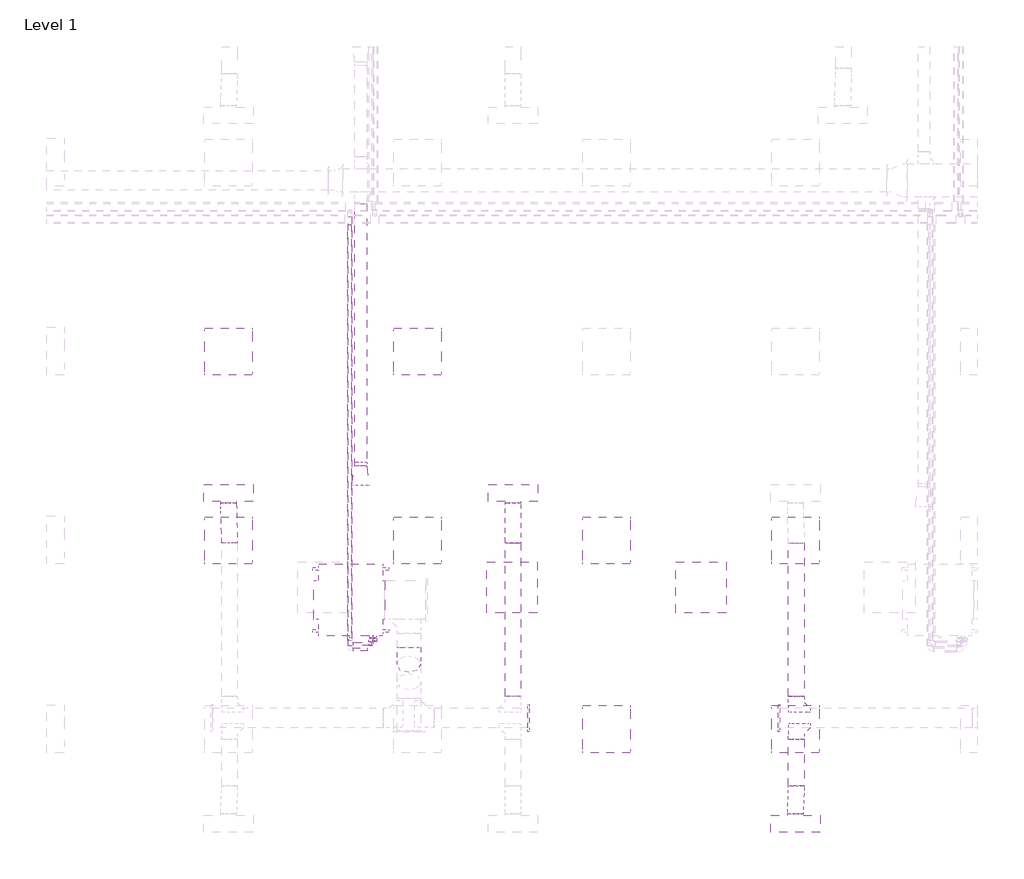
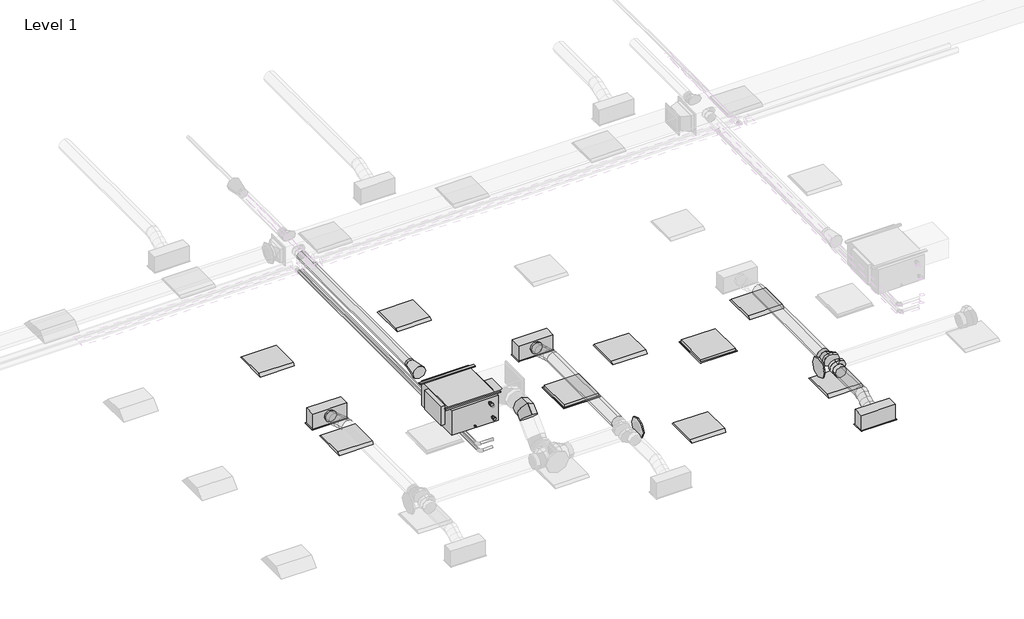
# One storey, part 7 of 30: 8 light fixtures, 7 duct segments, 6 air terminals, 6 pipe segments, 5 duct fittings, 2 pipe fittings, 1 proxy.
"""IFC4 building model written with IfcOpenShell, lengths in millimetres."""

from ifc_helpers import new_model, si_unit, point, frame, frame_2d, origin, place, context, project, spatial, circle_curve, ellipse_curve, trimmed, segment, composite_curve, outline, extrude, transform, mapped, element, save
from ifc_brep_helpers import plane_surface, cylinder_surface, advanced_brep
from components import air_terminal_0d1c431e, return_grille_rectangular_hosted_standard_7b12617c, supply_diffuser_with_plenum_linear_slot_hosted_2b730595, fan_coil_unit_ceiling_ducted_chw_376_lps_d7d55c98, dw144_round_blank_end_standard_9aa061e7, dw144_round_segmented_bend_slip_joint_standard_8b80c5ae, dw144_round_shoe_branch_slip_joint1_standard_2_15a2edd8, light_fixture_1c7c1157, light_fixture_b730b5ca, socket_reducing_threaded_gmi_standard_0a4076b8

model = new_model("IFC4")

# Units and contexts
model_context = context("Model", 3, world=origin())
ifc_project = project(units=[si_unit("LENGTHUNIT", "METRE", prefix="MILLI")], contexts=[model_context])

# Site, building, storey
site = spatial("IfcSite", under=ifc_project)
building = spatial("IfcBuilding", under=site)
storey = spatial("IfcBuildingStorey", under=building, Name="Level 1", Elevation=3900.0)

# Air terminals
placement = place(None, origin())
air_terminal_shape = air_terminal_0d1c431e(model_context)
element("IfcAirTerminal", 1, ObjectType="Supply_Bell_Mouth_Grille : Supply_Bell_Mouth_Grille", at=placement, inside=storey, context=model_context, shape_type="MappedRepresentation", body=[
    mapped(air_terminal_shape, transform((18039.0080407, 5510.2561435, 6946.3), x_axis=(0.0, -1.0, 0.0), y_axis=(1.0, 0.0, 0.0), z_axis=(0.0, 0.0, 1.0))),
])
return_grille_rectangular_hosted_standard_shape = return_grille_rectangular_hosted_standard_7b12617c(model_context)
element("IfcAirTerminal", 2, ObjectType="Return Grille - Rectangular - Hosted : Standard", at=placement, inside=storey, context=model_context, shape_type="MappedRepresentation", body=[
    mapped(return_grille_rectangular_hosted_standard_shape, transform((19962.2000027, 3963.2000004, 6700.0), x_axis=(1.0, 0.0, 0.0), y_axis=(0.0, -1.0, 0.0), z_axis=(0.0, 0.0, -1.0))),
])
element("IfcAirTerminal", 3, ObjectType="Return Grille - Rectangular - Hosted : Standard", at=placement, inside=storey, context=model_context, shape_type="MappedRepresentation", body=[
    mapped(return_grille_rectangular_hosted_standard_shape, transform((22362.2000027, 3963.2000004, 6700.0), x_axis=(0.0, -1.0, 0.0), y_axis=(-1.0, 0.0, 0.0), z_axis=(0.0, 0.0, -1.0))),
])
supply_diffuser_with_plenum_linear_slot_hosted_shape = supply_diffuser_with_plenum_linear_slot_hosted_2b730595(model_context)
element("IfcAirTerminal", 4, ObjectType="Supply Diffuser with Plenum - Linear Slot - Hosted : 24\" x 8\"-200 In Inlet  4-Slot", at=placement, inside=storey, context=model_context, shape_type="MappedRepresentation", body=[
    mapped(supply_diffuser_with_plenum_linear_slot_hosted_shape, transform((23562.2000027, 963.2000004, 6700.0), x_axis=(1.0, 0.0, 0.0), y_axis=(0.0, -1.0, 0.0), z_axis=(0.0, 0.0, -1.0))),
])
element("IfcAirTerminal", 5, ObjectType="Supply Diffuser with Plenum - Linear Slot - Hosted : 24\" x 8\"-200 In Inlet  4-Slot", at=placement, inside=storey, context=model_context, shape_type="MappedRepresentation", body=[
    mapped(supply_diffuser_with_plenum_linear_slot_hosted_shape, transform((16362.2000027, 5163.2000004, 6700.0), x_axis=(-1.0, 0.0, 0.0), y_axis=(0.0, 1.0, 0.0), z_axis=(0.0, 0.0, -1.0))),
])
element("IfcAirTerminal", 6, ObjectType="Supply Diffuser with Plenum - Linear Slot - Hosted : 24\" x 8\"-200 In Inlet  4-Slot", at=placement, inside=storey, context=model_context, shape_type="MappedRepresentation", body=[
    mapped(supply_diffuser_with_plenum_linear_slot_hosted_shape, transform((19973.9000022, 5163.2000004, 6700.0), x_axis=(-1.0, 0.0, 0.0), y_axis=(0.0, 1.0, 0.0), z_axis=(0.0, 0.0, -1.0))),
])

# Proxy
fan_coil_unit_ceiling_ducted_chw_376_lps_shape = fan_coil_unit_ceiling_ducted_chw_376_lps_d7d55c98(model_context)
element("IfcBuildingElementProxy", 7, Name="Fan Coil Unit - Ceiling Ducted - CHW : 376 LPS", ObjectType="Fan Coil Unit - Ceiling Ducted - CHW : 376 LPS", at=placement, inside=storey, context=model_context, shape_type="MappedRepresentation", body=[
    mapped(fan_coil_unit_ceiling_ducted_chw_376_lps_shape, transform((18321.2561025, 4263.2000004, 7122.3911538), x_axis=(0.0, -1.0, 0.0), y_axis=(1.0, 0.0, 0.0), z_axis=(0.0, 0.0, 1.0))),
])

# Duct fittings
dw144_round_blank_end_standard_shape = dw144_round_blank_end_standard_9aa061e7(model_context)
element("IfcDuctFitting", 8, ObjectType="DW144 Round Blank End : Standard", at=placement, inside=storey, context=model_context, shape_type="MappedRepresentation", body=[
    mapped(dw144_round_blank_end_standard_shape, transform((20161.4561025, 2306.5018192, 6972.2088531), x_axis=(1.0, 0.0, 0.0), y_axis=(0.0, 1.0, 0.0), z_axis=(0.0, 0.0, 1.0))),
])
element("IfcDuctFitting", 9, ObjectType="DW144 Round Blank End : Standard", at=placement, inside=storey, context=model_context, shape_type="MappedRepresentation", body=[
    mapped(dw144_round_blank_end_standard_shape, transform((23361.4561025, 2306.5018192, 6972.2088531), x_axis=(-1.0, 0.0, 0.0), y_axis=(0.0, -1.0, 0.0), z_axis=(0.0, 0.0, 1.0))),
])
dw144_round_segmented_bend_slip_joint_standard_shape = dw144_round_segmented_bend_slip_joint_standard_8b80c5ae(model_context)
element("IfcDuctFitting", 10, ObjectType="DW144 Round Segmented Bend - Slip Joint : Standard", at=placement, inside=storey, context=model_context, shape_type="MappedRepresentation", body=[
    mapped(dw144_round_segmented_bend_slip_joint_standard_shape, transform((18651.4561025, 3076.0000004, 7369.575), x_axis=(0.0, -1.0, 0.0), y_axis=(0.0, 0.0, 1.0), z_axis=(-1.0, 0.0, 0.0))),
])
dw144_round_shoe_branch_slip_joint1_standard_2_shape = dw144_round_shoe_branch_slip_joint1_standard_2_15a2edd8(model_context)
element("IfcDuctFitting", 11, ObjectType="DW144 Round Shoe Branch - Slip Joint1 : Standard 2", at=placement, inside=storey, context=model_context, shape_type="MappedRepresentation", body=[
    mapped(dw144_round_shoe_branch_slip_joint1_standard_2_shape, transform((23573.9000022, 2181.5018192, 6972.2088531), x_axis=(0.0, -1.0, 0.0), y_axis=(-1.0, 0.0, 0.0), z_axis=(0.0, 0.0, -1.0))),
])
element("IfcDuctFitting", 12, ObjectType="DW144 Round Shoe Branch - Slip Joint1 : Standard 2", at=placement, inside=storey, context=model_context, shape_type="MappedRepresentation", body=[
    mapped(dw144_round_shoe_branch_slip_joint1_standard_2_shape, transform((23573.9000022, 2431.5018192, 6972.2088531), x_axis=(0.0, 1.0, 0.0), y_axis=(-1.0, 0.0, 0.0), z_axis=(0.0, 0.0, 1.0))),
])

# Duct segments
element("IfcDuctSegment", 13, ObjectType="DW144 Segmented Bend / Shoe Branch", at=placement, inside=storey, context=model_context, shape_type="SweptSolid", body=[
    extrude(outline(composite_curve([segment(trimmed(circle_curve(frame_2d((6972.2088531, 19973.9000022)), 100.0), [point((6972.2088531, 20073.9000022))], [point((7072.2088531, 19973.9000022))], False, "CARTESIAN"), True, "CONTINUOUS"), segment(trimmed(circle_curve(frame_2d((6972.2088531, 19973.9000022)), 100.0), [point((7072.2088531, 19973.9000022))], [point((6972.2088531, 19873.9000022))], False, "CARTESIAN"), True, "CONTINUOUS"), segment(trimmed(circle_curve(frame_2d((6972.2088531, 19973.9000022)), 100.0), [point((6972.2088531, 19873.9000022))], [point((6872.2088531, 19973.9000022))], False, "CARTESIAN"), True, "CONTINUOUS"), segment(trimmed(circle_curve(frame_2d((6972.2088531, 19973.9000022)), 100.0), [point((6872.2088531, 19973.9000022))], [point((6972.2088531, 20073.9000022))], False, "CARTESIAN"), True, "CONTINUOUS")], self_intersect=False)), frame((0.0, 2581.5018192, 0.0), z_axis=(0.0, 1.0, 0.0), x_axis=(0.0, 0.0, 1.0)), (0.0, 0.0, 1.0), 1950.0),
])
element("IfcDuctSegment", 14, ObjectType="DW144 Segmented Bend / Shoe Branch", at=placement, inside=storey, context=model_context, shape_type="SweptSolid", body=[
    extrude(outline(composite_curve([segment(trimmed(circle_curve(frame_2d((6972.2088531, 23573.9000022)), 100.0), [point((6972.2088531, 23673.9000022))], [point((7072.2088531, 23573.9000022))], False, "CARTESIAN"), True, "CONTINUOUS"), segment(trimmed(circle_curve(frame_2d((6972.2088531, 23573.9000022)), 100.0), [point((7072.2088531, 23573.9000022))], [point((6972.2088531, 23473.9000022))], False, "CARTESIAN"), True, "CONTINUOUS"), segment(trimmed(circle_curve(frame_2d((6972.2088531, 23573.9000022)), 100.0), [point((6972.2088531, 23473.9000022))], [point((6872.2088531, 23573.9000022))], False, "CARTESIAN"), True, "CONTINUOUS"), segment(trimmed(circle_curve(frame_2d((6972.2088531, 23573.9000022)), 100.0), [point((6872.2088531, 23573.9000022))], [point((6972.2088531, 23673.9000022))], False, "CARTESIAN"), True, "CONTINUOUS")], self_intersect=False)), frame((0.0, 1441.5018192, 0.0), z_axis=(0.0, 1.0, 0.0), x_axis=(0.0, 0.0, 1.0)), (0.0, 0.0, 1.0), 590.0),
])
element("IfcDuctSegment", 15, ObjectType="DW144 Segmented Bend / Shoe Branch", at=placement, inside=storey, context=model_context, shape_type="SweptSolid", body=[
    extrude(outline(composite_curve([segment(trimmed(circle_curve(frame_2d((6972.2088531, 23573.9000022)), 100.0), [point((6972.2088531, 23673.9000022))], [point((7072.2088531, 23573.9000022))], False, "CARTESIAN"), True, "CONTINUOUS"), segment(trimmed(circle_curve(frame_2d((6972.2088531, 23573.9000022)), 100.0), [point((7072.2088531, 23573.9000022))], [point((6972.2088531, 23473.9000022))], False, "CARTESIAN"), True, "CONTINUOUS"), segment(trimmed(circle_curve(frame_2d((6972.2088531, 23573.9000022)), 100.0), [point((6972.2088531, 23473.9000022))], [point((6872.2088531, 23573.9000022))], False, "CARTESIAN"), True, "CONTINUOUS"), segment(trimmed(circle_curve(frame_2d((6972.2088531, 23573.9000022)), 100.0), [point((6872.2088531, 23573.9000022))], [point((6972.2088531, 23673.9000022))], False, "CARTESIAN"), True, "CONTINUOUS")], self_intersect=False)), frame((0.0, 2581.5018192, 0.0), z_axis=(0.0, 1.0, 0.0), x_axis=(0.0, 0.0, 1.0)), (0.0, 0.0, 1.0), 1950.0),
])
element("IfcDuctSegment", 16, ObjectType="DW144 Segmented Bend / Shoe Branch", at=placement, inside=storey, context=model_context, shape_type="SweptSolid", body=[
    extrude(outline(composite_curve([segment(trimmed(circle_curve(frame_2d((6946.3, 18039.0080407)), 75.0), [point((6946.3, 17964.0080407))], [point((6871.3, 18039.0080407))], False, "CARTESIAN"), True, "CONTINUOUS"), segment(trimmed(circle_curve(frame_2d((6946.3, 18039.0080407)), 75.0), [point((6871.3, 18039.0080407))], [point((6946.3, 18114.0080407))], False, "CARTESIAN"), True, "CONTINUOUS"), segment(trimmed(circle_curve(frame_2d((6946.3, 18039.0080407)), 75.0), [point((6946.3, 18114.0080407))], [point((7021.3, 18039.0080407))], False, "CARTESIAN"), True, "CONTINUOUS"), segment(trimmed(circle_curve(frame_2d((6946.3, 18039.0080407)), 75.0), [point((7021.3, 18039.0080407))], [point((6946.3, 17964.0080407))], False, "CARTESIAN"), True, "CONTINUOUS")], self_intersect=False)), frame((0.0, 5510.2561435, 0.0), z_axis=(0.0, 1.0, 0.0), x_axis=(0.0, 0.0, 1.0)), (0.0, 0.0, 1.0), 3329.1601689),
])
element("IfcDuctSegment", 17, ObjectType="Flex - Round", at=placement, inside=storey, context=model_context, shape_type="AdvancedBrep", body=[
    advanced_brep(
    [(16273.9000022, 4531.5018192, 6972.2088531), (16373.9000022, 4531.5018192, 6872.2088531), (16473.9000022, 4531.5018192, 6972.2088531), (16373.9000022, 4531.5018192, 7072.2088531), (16273.9000022, 4544.9917141, 6972.2088531), (16373.9000022, 4537.7147353, 6872.2088531), (16473.9000022, 4546.5964935, 6972.2088531), (16373.9000022, 4553.8734723, 7072.2088531), (16262.2000027, 5036.2000004, 6854.4), (16362.2000027, 5036.2000004, 6954.4), (16462.2000027, 5036.2000004, 6854.4), (16362.2000027, 5036.2000004, 6754.4), (16272.0967445, 4656.6189403, 6954.0516107), (16372.3222682, 4635.3813467, 6856.322439), (16472.0470101, 4661.3024295, 6953.5508289), (16371.8214864, 4682.5400231, 7051.2800006), (16268.0980601, 4780.789038, 6913.7883253), (16368.5339011, 4753.0205151, 6818.1768669), (16468.0019448, 4786.9127816, 6912.8205279), (16367.5661038, 4814.6813046, 7008.4319862), (16264.0529948, 4906.3993902, 6873.0580242), (16364.2785185, 4885.1617966, 6775.3288525), (16464.0032604, 4911.0828794, 6872.5572424), (16363.7777367, 4932.320473, 6970.2864141), (16262.2000027, 5021.1053262, 6854.4), (16362.2000027, 5013.8283474, 6754.4), (16462.2000027, 5022.7101055, 6854.4), (16362.2000027, 5029.9870843, 6954.4)],
    [
        (0, 1, circle_curve(frame((16373.9000022, 4531.5018192, 6972.2088531), z_axis=(0.0, -1.0, 0.0), x_axis=(-1.0, 0.0, 0.0)), 100.0)),
        (1, 2, circle_curve(frame((16373.9000022, 4531.5018192, 6972.2088531), z_axis=(0.0, -1.0, 0.0), x_axis=(-1.0, 0.0, 0.0)), 100.0)),
        (2, 3, circle_curve(frame((16373.9000022, 4531.5018192, 6972.2088531), z_axis=(0.0, -1.0, 0.0), x_axis=(-1.0, 0.0, 0.0)), 100.0)),
        (3, 0, circle_curve(frame((16373.9000022, 4531.5018192, 6972.2088531), z_axis=(0.0, -1.0, 0.0), x_axis=(-1.0, 0.0, 0.0)), 100.0)),
        (0, 4),
        (4, 5, ellipse_curve(frame((16373.9000022, 4545.7941038, 6972.2088531), z_axis=(0.007997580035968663, -0.9967202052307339, 0.0805286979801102), x_axis=(-0.09850310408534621, -0.0809248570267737, -0.991840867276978)), 100.3290587, 100.0)),
        (5, 1),
        (5, 6, ellipse_curve(frame((16373.9000022, 4545.7941038, 6972.2088531), z_axis=(0.007997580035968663, -0.9967202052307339, 0.0805286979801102), x_axis=(-0.09850310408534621, -0.0809248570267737, -0.991840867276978)), 100.3290587, 100.0)),
        (6, 2),
        (6, 7, ellipse_curve(frame((16373.9000022, 4545.7941038, 6972.2088531), z_axis=(0.007997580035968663, -0.9967202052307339, 0.0805286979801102), x_axis=(-0.09850310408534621, -0.0809248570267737, -0.991840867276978)), 100.3290587, 100.0)),
        (7, 3),
        (7, 4, ellipse_curve(frame((16373.9000022, 4545.7941038, 6972.2088531), z_axis=(0.007997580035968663, -0.9967202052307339, 0.0805286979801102), x_axis=(-0.09850310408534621, -0.0809248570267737, -0.991840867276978)), 100.3290587, 100.0)),
        (8, 9, circle_curve(frame((16362.2000027, 5036.2000004, 6854.4), z_axis=(0.0, 1.0, 0.0), x_axis=(-1.0, 0.0, 0.0)), 100.0)),
        (9, 10, circle_curve(frame((16362.2000027, 5036.2000004, 6854.4), z_axis=(0.0, 1.0, 0.0), x_axis=(-1.0, 0.0, 0.0)), 100.0)),
        (10, 11, circle_curve(frame((16362.2000027, 5036.2000004, 6854.4), z_axis=(0.0, 1.0, 0.0), x_axis=(-1.0, 0.0, 0.0)), 100.0)),
        (11, 8, circle_curve(frame((16362.2000027, 5036.2000004, 6854.4), z_axis=(0.0, 1.0, 0.0), x_axis=(-1.0, 0.0, 0.0)), 100.0)),
        (4, 12),
        (12, 13, ellipse_curve(frame((16372.0718773, 4658.9606849, 6953.8012198), z_axis=(0.02334897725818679, -0.9716897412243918, 0.23510396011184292), x_axis=(-0.09602941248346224, -0.23626054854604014, -0.9669329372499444)), 100.2932412, 100.0)),
        (13, 5),
        (13, 14, ellipse_curve(frame((16372.0718773, 4658.9606849, 6953.8012198), z_axis=(0.02334897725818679, -0.9716897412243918, 0.23510396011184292), x_axis=(-0.09602941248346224, -0.23626054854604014, -0.9669329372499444)), 100.2932412, 100.0)),
        (14, 6),
        (14, 15, ellipse_curve(frame((16372.0718773, 4658.9606849, 6953.8012198), z_axis=(0.02334897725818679, -0.9716897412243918, 0.23510396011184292), x_axis=(-0.09602941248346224, -0.23626054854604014, -0.9669329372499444)), 100.2932412, 100.0)),
        (15, 7),
        (15, 12, ellipse_curve(frame((16372.0718773, 4658.9606849, 6953.8012198), z_axis=(0.02334897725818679, -0.9716897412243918, 0.23510396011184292), x_axis=(-0.09602941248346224, -0.23626054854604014, -0.9669329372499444)), 100.2932412, 100.0)),
        (12, 16),
        (16, 17, circle_curve(frame((16368.0500024, 4783.8509098, 6913.3044266), z_axis=(0.030618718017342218, -0.9507950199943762, 0.3083039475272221), x_axis=(-0.9995194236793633, -0.030618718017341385, 0.004838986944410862)), 100.0)),
        (17, 13),
        (17, 18, circle_curve(frame((16368.0500024, 4783.8509098, 6913.3044266), z_axis=(0.030618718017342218, -0.9507950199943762, 0.3083039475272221), x_axis=(-0.9995194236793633, -0.030618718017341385, 0.004838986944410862)), 100.0)),
        (18, 14),
        (18, 19, circle_curve(frame((16368.0500024, 4783.8509098, 6913.3044266), z_axis=(0.030618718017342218, -0.9507950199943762, 0.3083039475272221), x_axis=(-0.9995194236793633, -0.030618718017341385, 0.004838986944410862)), 100.0)),
        (19, 15),
        (19, 16, circle_curve(frame((16368.0500024, 4783.8509098, 6913.3044266), z_axis=(0.030618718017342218, -0.9507950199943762, 0.3083039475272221), x_axis=(-0.9995194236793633, -0.030618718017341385, 0.004838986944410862)), 100.0)),
        (16, 20),
        (20, 21, ellipse_curve(frame((16364.0281276, 4908.7411348, 6872.8076333), z_axis=(0.023348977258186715, -0.971689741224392, 0.23510396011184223), x_axis=(0.09602941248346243, 0.23626054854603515, 0.9669329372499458)), 100.2932412, 100.0)),
        (21, 17),
        (21, 22, ellipse_curve(frame((16364.0281276, 4908.7411348, 6872.8076333), z_axis=(0.023348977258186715, -0.971689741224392, 0.23510396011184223), x_axis=(0.09602941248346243, 0.23626054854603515, 0.9669329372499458)), 100.2932412, 100.0)),
        (22, 18),
        (22, 23, ellipse_curve(frame((16364.0281276, 4908.7411348, 6872.8076333), z_axis=(0.023348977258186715, -0.971689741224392, 0.23510396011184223), x_axis=(0.09602941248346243, 0.23626054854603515, 0.9669329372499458)), 100.2932412, 100.0)),
        (23, 19),
        (23, 20, ellipse_curve(frame((16364.0281276, 4908.7411348, 6872.8076333), z_axis=(0.023348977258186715, -0.971689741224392, 0.23510396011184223), x_axis=(0.09602941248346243, 0.23626054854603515, 0.9669329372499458)), 100.2932412, 100.0)),
        (20, 24),
        (24, 25, ellipse_curve(frame((16362.2000027, 5021.9077159, 6854.4), z_axis=(0.007997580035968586, -0.9967202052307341, 0.08052869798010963), x_axis=(0.09850310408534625, 0.08092485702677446, 0.9918408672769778)), 100.3290587, 100.0)),
        (25, 21),
        (25, 26, ellipse_curve(frame((16362.2000027, 5021.9077159, 6854.4), z_axis=(0.007997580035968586, -0.9967202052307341, 0.08052869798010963), x_axis=(0.09850310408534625, 0.08092485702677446, 0.9918408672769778)), 100.3290587, 100.0)),
        (26, 22),
        (26, 27, ellipse_curve(frame((16362.2000027, 5021.9077159, 6854.4), z_axis=(0.007997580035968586, -0.9967202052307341, 0.08052869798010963), x_axis=(0.09850310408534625, 0.08092485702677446, 0.9918408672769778)), 100.3290587, 100.0)),
        (27, 23),
        (27, 24, ellipse_curve(frame((16362.2000027, 5021.9077159, 6854.4), z_axis=(0.007997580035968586, -0.9967202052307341, 0.08052869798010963), x_axis=(0.09850310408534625, 0.08092485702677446, 0.9918408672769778)), 100.3290587, 100.0)),
        (24, 8),
        (11, 25),
        (10, 26),
        (9, 27),
    ],
    [
        plane_surface(frame((16273.9000022, 4531.5018192, 6972.2088531), z_axis=(0.0, -1.0, 0.0), x_axis=(0.0, 0.0, 1.0))),
        cylinder_surface(frame((16373.9000022, 4531.5018192, 6972.2088531), z_axis=(0.0, -1.0, 0.0), x_axis=(-1.0, 0.0, 0.0)), 100.0),
        plane_surface(frame((16262.2000027, 5036.2000004, 6854.4), z_axis=(0.0, 1.0, 0.0), x_axis=(0.0, 0.0, 1.0))),
        cylinder_surface(frame((16373.9000022, 4545.7941038, 6972.2088531), z_axis=(0.015942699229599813, -0.986902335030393, 0.16052916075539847), x_axis=(-0.9998720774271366, -0.015942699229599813, 0.0012880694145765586)), 100.0),
        cylinder_surface(frame((16372.0718773, 4658.9606849, 6953.8012198), z_axis=(0.030618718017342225, -0.9507950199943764, 0.3083039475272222), x_axis=(-0.9995194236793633, -0.030618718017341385, 0.004838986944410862)), 100.0),
        cylinder_surface(frame((16368.0500024, 4783.8509098, 6913.3044266), z_axis=(0.03061871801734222, -0.9507950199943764, 0.3083039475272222), x_axis=(-0.9995194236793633, -0.030618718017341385, 0.004838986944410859)), 100.0),
        cylinder_surface(frame((16364.0281276, 4908.7411348, 6872.8076333), z_axis=(0.015942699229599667, -0.9869023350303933, 0.16052916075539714), x_axis=(-0.9998720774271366, -0.015942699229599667, 0.0012880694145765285)), 100.0),
        cylinder_surface(frame((16362.2000027, 5021.9077159, 6854.4), z_axis=(0.0, -1.0, 0.0), x_axis=(-1.0, 0.0, 0.0)), 100.0),
    ],
    [
        (0, [[1, 2, 3, 4]]),
        (1, [[-1, 5, 6, 7]]),
        (1, [[-2, -7, 8, 9]]),
        (1, [[-3, -9, 10, 11]]),
        (1, [[-4, -11, 12, -5]]),
        (2, [[13, 14, 15, 16]]),
        (3, [[-6, 17, 18, 19]]),
        (3, [[-8, -19, 20, 21]]),
        (3, [[-10, -21, 22, 23]]),
        (3, [[-12, -23, 24, -17]]),
        (4, [[-18, 25, 26, 27]]),
        (4, [[-20, -27, 28, 29]]),
        (4, [[-22, -29, 30, 31]]),
        (4, [[-24, -31, 32, -25]]),
        (5, [[-26, 33, 34, 35]]),
        (5, [[-28, -35, 36, 37]]),
        (5, [[-30, -37, 38, 39]]),
        (5, [[-32, -39, 40, -33]]),
        (6, [[-34, 41, 42, 43]]),
        (6, [[-36, -43, 44, 45]]),
        (6, [[-38, -45, 46, 47]]),
        (6, [[-40, -47, 48, -41]]),
        (7, [[-42, 49, -16, 50]]),
        (7, [[-44, -50, -15, 51]]),
        (7, [[-46, -51, -14, 52]]),
        (7, [[-48, -52, -13, -49]]),
    ],
),
])
element("IfcDuctSegment", 18, ObjectType="Flex - Round", at=placement, inside=storey, context=model_context, shape_type="AdvancedBrep", body=[
    advanced_brep(
    [(19873.9000022, 4531.5018192, 6972.2088531), (19973.9000022, 4531.5018192, 6872.2088531), (20073.9000022, 4531.5018192, 6972.2088531), (19973.9000022, 4531.5018192, 7072.2088531), (19873.9000022, 4545.7969038, 6972.2088531), (19973.9000022, 4537.7159486, 6872.2088531), (20073.9000022, 4545.7969038, 6972.2088531), (19973.9000022, 4553.877859, 7072.2088531), (19873.9000022, 5036.2000004, 6854.4), (19973.9000022, 5036.2000004, 6954.4), (20073.9000022, 5036.2000004, 6854.4), (19973.9000022, 5036.2000004, 6754.4), (19873.9000022, 4658.9483053, 6953.8012198), (19973.9000022, 4635.3622903, 6856.3236053), (20073.9000022, 4658.9483053, 6953.8012198), (19973.9000022, 4682.5343203, 7051.2788343), (19873.9000022, 4783.8509098, 6913.3044266), (19973.9000022, 4753.0088194, 6818.1794274), (20073.9000022, 4783.8509098, 6913.3044266), (19973.9000022, 4814.6930003, 7008.4294257), (19873.9000022, 4908.7535143, 6872.8076333), (19973.9000022, 4885.1674994, 6775.3300188), (20073.9000022, 4908.7535143, 6872.8076333), (19973.9000022, 4932.3395293, 6970.2852478), (19873.9000022, 5021.9049158, 6854.4), (19973.9000022, 5013.8239606, 6754.4), (20073.9000022, 5021.9049158, 6854.4), (19973.9000022, 5029.985871, 6954.4)],
    [
        (0, 1, circle_curve(frame((19973.9000022, 4531.5018192, 6972.2088531), z_axis=(0.0, -1.0, 0.0), x_axis=(-1.0, 0.0, 0.0)), 100.0)),
        (1, 2, circle_curve(frame((19973.9000022, 4531.5018192, 6972.2088531), z_axis=(0.0, -1.0, 0.0), x_axis=(-1.0, 0.0, 0.0)), 100.0)),
        (2, 3, circle_curve(frame((19973.9000022, 4531.5018192, 6972.2088531), z_axis=(0.0, -1.0, 0.0), x_axis=(-1.0, 0.0, 0.0)), 100.0)),
        (3, 0, circle_curve(frame((19973.9000022, 4531.5018192, 6972.2088531), z_axis=(0.0, -1.0, 0.0), x_axis=(-1.0, 0.0, 0.0)), 100.0)),
        (0, 4),
        (4, 5, ellipse_curve(frame((19973.9000022, 4545.7969038, 6972.2088531), z_axis=(0.0, -0.9967508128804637, 0.08054698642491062), x_axis=(0.0, -0.08054698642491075, -0.9967508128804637)), 100.3259779, 100.0)),
        (5, 1),
        (5, 6, ellipse_curve(frame((19973.9000022, 4545.7969038, 6972.2088531), z_axis=(0.0, -0.9967508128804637, 0.08054698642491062), x_axis=(0.0, -0.08054698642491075, -0.9967508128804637)), 100.3259779, 100.0)),
        (6, 2),
        (6, 7, ellipse_curve(frame((19973.9000022, 4545.7969038, 6972.2088531), z_axis=(0.0, -0.9967508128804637, 0.08054698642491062), x_axis=(0.0, -0.08054698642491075, -0.9967508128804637)), 100.3259779, 100.0)),
        (7, 3),
        (7, 4, ellipse_curve(frame((19973.9000022, 4545.7969038, 6972.2088531), z_axis=(0.0, -0.9967508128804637, 0.08054698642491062), x_axis=(0.0, -0.08054698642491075, -0.9967508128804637)), 100.3259779, 100.0)),
        (8, 9, circle_curve(frame((19973.9000022, 5036.2000004, 6854.4), z_axis=(0.0, 1.0, 0.0), x_axis=(-1.0, 0.0, 0.0)), 100.0)),
        (9, 10, circle_curve(frame((19973.9000022, 5036.2000004, 6854.4), z_axis=(0.0, 1.0, 0.0), x_axis=(-1.0, 0.0, 0.0)), 100.0)),
        (10, 11, circle_curve(frame((19973.9000022, 5036.2000004, 6854.4), z_axis=(0.0, 1.0, 0.0), x_axis=(-1.0, 0.0, 0.0)), 100.0)),
        (11, 8, circle_curve(frame((19973.9000022, 5036.2000004, 6854.4), z_axis=(0.0, 1.0, 0.0), x_axis=(-1.0, 0.0, 0.0)), 100.0)),
        (4, 12),
        (12, 13, ellipse_curve(frame((19973.9000022, 4658.9483053, 6953.8012198), z_axis=(0.0, -0.9719525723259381, 0.23517694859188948), x_axis=(0.0, -0.2351769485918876, -0.9719525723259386)), 100.2905052, 100.0)),
        (13, 5),
        (13, 14, ellipse_curve(frame((19973.9000022, 4658.9483053, 6953.8012198), z_axis=(0.0, -0.9719525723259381, 0.23517694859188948), x_axis=(0.0, -0.2351769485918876, -0.9719525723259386)), 100.2905052, 100.0)),
        (14, 6),
        (14, 15, ellipse_curve(frame((19973.9000022, 4658.9483053, 6953.8012198), z_axis=(0.0, -0.9719525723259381, 0.23517694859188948), x_axis=(0.0, -0.2351769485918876, -0.9719525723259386)), 100.2905052, 100.0)),
        (15, 7),
        (15, 12, ellipse_curve(frame((19973.9000022, 4658.9483053, 6953.8012198), z_axis=(0.0, -0.9719525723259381, 0.23517694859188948), x_axis=(0.0, -0.2351769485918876, -0.9719525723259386)), 100.2905052, 100.0)),
        (12, 16),
        (16, 17, circle_curve(frame((19973.9000022, 4783.8509098, 6913.3044266), z_axis=(0.0, -0.9512499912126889, 0.3084209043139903), x_axis=(-1.0, 0.0, 0.0)), 100.0)),
        (17, 13),
        (17, 18, circle_curve(frame((19973.9000022, 4783.8509098, 6913.3044266), z_axis=(0.0, -0.9512499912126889, 0.3084209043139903), x_axis=(-1.0, 0.0, 0.0)), 100.0)),
        (18, 14),
        (18, 19, circle_curve(frame((19973.9000022, 4783.8509098, 6913.3044266), z_axis=(0.0, -0.9512499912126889, 0.3084209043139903), x_axis=(-1.0, 0.0, 0.0)), 100.0)),
        (19, 15),
        (19, 16, circle_curve(frame((19973.9000022, 4783.8509098, 6913.3044266), z_axis=(0.0, -0.9512499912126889, 0.3084209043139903), x_axis=(-1.0, 0.0, 0.0)), 100.0)),
        (16, 20),
        (20, 21, ellipse_curve(frame((19973.9000022, 4908.7535143, 6872.8076333), z_axis=(0.0, -0.9719525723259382, 0.23517694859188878), x_axis=(0.0, 0.23517694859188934, 0.9719525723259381)), 100.2905052, 100.0)),
        (21, 17),
        (21, 22, ellipse_curve(frame((19973.9000022, 4908.7535143, 6872.8076333), z_axis=(0.0, -0.9719525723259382, 0.23517694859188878), x_axis=(0.0, 0.23517694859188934, 0.9719525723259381)), 100.2905052, 100.0)),
        (22, 18),
        (22, 23, ellipse_curve(frame((19973.9000022, 4908.7535143, 6872.8076333), z_axis=(0.0, -0.9719525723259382, 0.23517694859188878), x_axis=(0.0, 0.23517694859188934, 0.9719525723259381)), 100.2905052, 100.0)),
        (23, 19),
        (23, 20, ellipse_curve(frame((19973.9000022, 4908.7535143, 6872.8076333), z_axis=(0.0, -0.9719525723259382, 0.23517694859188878), x_axis=(0.0, 0.23517694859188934, 0.9719525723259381)), 100.2905052, 100.0)),
        (20, 24),
        (24, 25, ellipse_curve(frame((19973.9000022, 5021.9049158, 6854.4), z_axis=(0.0, -0.9967508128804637, 0.08054698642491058), x_axis=(0.0, 0.08054698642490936, 0.9967508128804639)), 100.3259779, 100.0)),
        (25, 21),
        (25, 26, ellipse_curve(frame((19973.9000022, 5021.9049158, 6854.4), z_axis=(0.0, -0.9967508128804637, 0.08054698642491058), x_axis=(0.0, 0.08054698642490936, 0.9967508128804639)), 100.3259779, 100.0)),
        (26, 22),
        (26, 27, ellipse_curve(frame((19973.9000022, 5021.9049158, 6854.4), z_axis=(0.0, -0.9967508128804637, 0.08054698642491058), x_axis=(0.0, 0.08054698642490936, 0.9967508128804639)), 100.3259779, 100.0)),
        (27, 23),
        (27, 24, ellipse_curve(frame((19973.9000022, 5021.9049158, 6854.4), z_axis=(0.0, -0.9967508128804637, 0.08054698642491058), x_axis=(0.0, 0.08054698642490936, 0.9967508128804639)), 100.3259779, 100.0)),
        (24, 8),
        (11, 25),
        (10, 26),
        (9, 27),
    ],
    [
        plane_surface(frame((19873.9000022, 4531.5018192, 6972.2088531), z_axis=(0.0, -1.0, 0.0), x_axis=(0.0, 0.0, 1.0))),
        cylinder_surface(frame((19973.9000022, 4531.5018192, 6972.2088531), z_axis=(0.0, -1.0, 0.0), x_axis=(-1.0, 0.0, 0.0)), 100.0),
        plane_surface(frame((19873.9000022, 5036.2000004, 6854.4), z_axis=(0.0, 1.0, 0.0), x_axis=(0.0, 0.0, 1.0))),
        cylinder_surface(frame((19973.9000022, 4545.7969038, 6972.2088531), z_axis=(0.0, -0.9870243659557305, 0.1605705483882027), x_axis=(-1.0, 0.0, 0.0)), 100.0),
        cylinder_surface(frame((19973.9000022, 4658.9483053, 6953.8012198), z_axis=(0.0, -0.9512499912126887, 0.3084209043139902), x_axis=(-1.0, 0.0, 0.0)), 100.0),
        cylinder_surface(frame((19973.9000022, 4783.8509098, 6913.3044266), z_axis=(0.0, -0.9512499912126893, 0.30842090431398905), x_axis=(-1.0, 0.0, 0.0)), 100.0),
        cylinder_surface(frame((19973.9000022, 4908.7535143, 6872.8076333), z_axis=(0.0, -0.9870243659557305, 0.16057054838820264), x_axis=(-1.0, 0.0, 0.0)), 100.0),
        cylinder_surface(frame((19973.9000022, 5021.9049158, 6854.4), z_axis=(0.0, -1.0, 0.0), x_axis=(-1.0, 0.0, 0.0)), 100.0),
    ],
    [
        (0, [[1, 2, 3, 4]]),
        (1, [[-1, 5, 6, 7]]),
        (1, [[-2, -7, 8, 9]]),
        (1, [[-3, -9, 10, 11]]),
        (1, [[-4, -11, 12, -5]]),
        (2, [[13, 14, 15, 16]]),
        (3, [[-6, 17, 18, 19]]),
        (3, [[-8, -19, 20, 21]]),
        (3, [[-10, -21, 22, 23]]),
        (3, [[-12, -23, 24, -17]]),
        (4, [[-18, 25, 26, 27]]),
        (4, [[-20, -27, 28, 29]]),
        (4, [[-22, -29, 30, 31]]),
        (4, [[-24, -31, 32, -25]]),
        (5, [[-26, 33, 34, 35]]),
        (5, [[-28, -35, 36, 37]]),
        (5, [[-30, -37, 38, 39]]),
        (5, [[-32, -39, 40, -33]]),
        (6, [[-34, 41, 42, 43]]),
        (6, [[-36, -43, 44, 45]]),
        (6, [[-38, -45, 46, 47]]),
        (6, [[-40, -47, 48, -41]]),
        (7, [[-42, 49, -16, 50]]),
        (7, [[-44, -50, -15, 51]]),
        (7, [[-46, -51, -14, 52]]),
        (7, [[-48, -52, -13, -49]]),
    ],
),
])
element("IfcDuctSegment", 19, ObjectType="Flex - Round", at=placement, inside=storey, context=model_context, shape_type="AdvancedBrep", body=[
    advanced_brep(
    [(23673.9000022, 1441.5018192, 6972.2088531), (23573.9000022, 1441.5018192, 6872.2088531), (23473.9000022, 1441.5018192, 6972.2088531), (23573.9000022, 1441.5018192, 7072.2088531), (23673.9000022, 1420.0995917, 6972.2088531), (23573.9000022, 1434.401614, 6872.2088531), (23473.9000022, 1422.6837186, 6972.2088531), (23573.9000022, 1408.3816962, 7072.2088531), (23662.2000027, 1090.2000004, 6854.4), (23562.2000027, 1090.2000004, 6954.4), (23462.2000027, 1090.2000004, 6854.4), (23562.2000027, 1090.2000004, 6754.4), (23672.0161428, 1348.4444846, 6953.2400219), (23572.6330752, 1386.2123534, 6859.4519962), (23472.1276118, 1355.2684822, 6954.3624177), (23571.5106794, 1317.5006134, 7048.1504435), (23667.9561574, 1261.6239384, 6912.3594887), (23568.9949403, 1308.4128474, 6822.8191318), (23468.1438475, 1270.0778812, 6914.2493644), (23567.1050646, 1223.2889723, 7003.7897213), (23663.9723931, 1176.4333374, 6872.2464354), (23564.5893255, 1214.2012062, 6778.4584097), (23464.0838621, 1183.257335, 6873.3688312), (23563.4669297, 1145.4894662, 6967.1568569), (23662.2000027, 1109.0181011, 6854.4), (23562.2000027, 1123.3201234, 6754.4), (23462.2000027, 1111.602228, 6854.4), (23562.2000027, 1097.3002057, 6954.4)],
    [
        (0, 1, circle_curve(frame((23573.9000022, 1441.5018192, 6972.2088531), z_axis=(0.0, 1.0, 0.0), x_axis=(1.0, 0.0, 0.0)), 100.0)),
        (1, 2, circle_curve(frame((23573.9000022, 1441.5018192, 6972.2088531), z_axis=(0.0, 1.0, 0.0), x_axis=(1.0, 0.0, 0.0)), 100.0)),
        (2, 3, circle_curve(frame((23573.9000022, 1441.5018192, 6972.2088531), z_axis=(0.0, 1.0, 0.0), x_axis=(1.0, 0.0, 0.0)), 100.0)),
        (3, 0, circle_curve(frame((23573.9000022, 1441.5018192, 6972.2088531), z_axis=(0.0, 1.0, 0.0), x_axis=(1.0, 0.0, 0.0)), 100.0)),
        (0, 4),
        (4, 5, ellipse_curve(frame((23573.9000022, 1421.3916551, 6972.2088531), z_axis=(0.01281160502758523, 0.9915616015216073, 0.1290017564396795), x_axis=(-0.097993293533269, 0.12963637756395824, -0.9867075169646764)), 100.8510211, 100.0)),
        (5, 1),
        (5, 6, ellipse_curve(frame((23573.9000022, 1421.3916551, 6972.2088531), z_axis=(0.01281160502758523, 0.9915616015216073, 0.1290017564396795), x_axis=(-0.097993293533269, 0.12963637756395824, -0.9867075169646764)), 100.8510211, 100.0)),
        (6, 2),
        (6, 7, ellipse_curve(frame((23573.9000022, 1421.3916551, 6972.2088531), z_axis=(0.01281160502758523, 0.9915616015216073, 0.1290017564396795), x_axis=(-0.097993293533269, 0.12963637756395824, -0.9867075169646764)), 100.8510211, 100.0)),
        (7, 3),
        (7, 4, ellipse_curve(frame((23573.9000022, 1421.3916551, 6972.2088531), z_axis=(0.01281160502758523, 0.9915616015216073, 0.1290017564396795), x_axis=(-0.097993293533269, 0.12963637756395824, -0.9867075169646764)), 100.8510211, 100.0)),
        (8, 9, circle_curve(frame((23562.2000027, 1090.2000004, 6854.4), z_axis=(0.0, -1.0, 0.0), x_axis=(1.0, 0.0, 0.0)), 100.0)),
        (9, 10, circle_curve(frame((23562.2000027, 1090.2000004, 6854.4), z_axis=(0.0, -1.0, 0.0), x_axis=(1.0, 0.0, 0.0)), 100.0)),
        (10, 11, circle_curve(frame((23562.2000027, 1090.2000004, 6854.4), z_axis=(0.0, -1.0, 0.0), x_axis=(1.0, 0.0, 0.0)), 100.0)),
        (11, 8, circle_curve(frame((23562.2000027, 1090.2000004, 6854.4), z_axis=(0.0, -1.0, 0.0), x_axis=(1.0, 0.0, 0.0)), 100.0)),
        (4, 12),
        (12, 13, ellipse_curve(frame((23572.0718773, 1351.8564834, 6953.8012198), z_axis=(0.033978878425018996, 0.9390352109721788, 0.34213784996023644), x_axis=(-0.09280225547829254, 0.3438209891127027, -0.9344382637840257)), 100.4152859, 100.0)),
        (13, 5),
        (13, 14, ellipse_curve(frame((23572.0718773, 1351.8564834, 6953.8012198), z_axis=(0.033978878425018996, 0.9390352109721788, 0.34213784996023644), x_axis=(-0.09280225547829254, 0.3438209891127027, -0.9344382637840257)), 100.4152859, 100.0)),
        (14, 6),
        (14, 15, ellipse_curve(frame((23572.0718773, 1351.8564834, 6953.8012198), z_axis=(0.033978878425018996, 0.9390352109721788, 0.34213784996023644), x_axis=(-0.09280225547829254, 0.3438209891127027, -0.9344382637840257)), 100.4152859, 100.0)),
        (15, 7),
        (15, 12, ellipse_curve(frame((23572.0718773, 1351.8564834, 6953.8012198), z_axis=(0.033978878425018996, 0.9390352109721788, 0.34213784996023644), x_axis=(-0.09280225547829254, 0.3438209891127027, -0.9344382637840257)), 100.4152859, 100.0)),
        (12, 16),
        (16, 17, circle_curve(frame((23568.0500024, 1265.8509098, 6913.3044266), z_axis=(0.042269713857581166, 0.9039144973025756, 0.42561937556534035), x_axis=(0.9990615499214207, -0.04226971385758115, -0.009449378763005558)), 100.0)),
        (17, 13),
        (17, 18, circle_curve(frame((23568.0500024, 1265.8509098, 6913.3044266), z_axis=(0.042269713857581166, 0.9039144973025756, 0.42561937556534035), x_axis=(0.9990615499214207, -0.04226971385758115, -0.009449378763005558)), 100.0)),
        (18, 14),
        (18, 19, circle_curve(frame((23568.0500024, 1265.8509098, 6913.3044266), z_axis=(0.042269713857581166, 0.9039144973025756, 0.42561937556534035), x_axis=(0.9990615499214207, -0.04226971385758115, -0.009449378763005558)), 100.0)),
        (19, 15),
        (19, 16, circle_curve(frame((23568.0500024, 1265.8509098, 6913.3044266), z_axis=(0.042269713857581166, 0.9039144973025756, 0.42561937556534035), x_axis=(0.9990615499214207, -0.04226971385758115, -0.009449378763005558)), 100.0)),
        (16, 20),
        (20, 21, ellipse_curve(frame((23564.0281276, 1179.8453362, 6872.8076333), z_axis=(0.03397887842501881, 0.9390352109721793, 0.3421378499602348), x_axis=(0.09280225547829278, -0.34382098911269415, 0.9344382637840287)), 100.4152859, 100.0)),
        (21, 17),
        (21, 22, ellipse_curve(frame((23564.0281276, 1179.8453362, 6872.8076333), z_axis=(0.03397887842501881, 0.9390352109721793, 0.3421378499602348), x_axis=(0.09280225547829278, -0.34382098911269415, 0.9344382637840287)), 100.4152859, 100.0)),
        (22, 18),
        (22, 23, ellipse_curve(frame((23564.0281276, 1179.8453362, 6872.8076333), z_axis=(0.03397887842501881, 0.9390352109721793, 0.3421378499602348), x_axis=(0.09280225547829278, -0.34382098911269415, 0.9344382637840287)), 100.4152859, 100.0)),
        (23, 19),
        (23, 20, ellipse_curve(frame((23564.0281276, 1179.8453362, 6872.8076333), z_axis=(0.03397887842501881, 0.9390352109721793, 0.3421378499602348), x_axis=(0.09280225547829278, -0.34382098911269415, 0.9344382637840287)), 100.4152859, 100.0)),
        (20, 24),
        (24, 25, ellipse_curve(frame((23562.2000027, 1110.3101645, 6854.4), z_axis=(0.012811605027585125, 0.9915616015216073, 0.12900175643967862), x_axis=(0.09799329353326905, -0.12963637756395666, 0.9867075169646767)), 100.8510211, 100.0)),
        (25, 21),
        (25, 26, ellipse_curve(frame((23562.2000027, 1110.3101645, 6854.4), z_axis=(0.012811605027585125, 0.9915616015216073, 0.12900175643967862), x_axis=(0.09799329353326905, -0.12963637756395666, 0.9867075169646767)), 100.8510211, 100.0)),
        (26, 22),
        (26, 27, ellipse_curve(frame((23562.2000027, 1110.3101645, 6854.4), z_axis=(0.012811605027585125, 0.9915616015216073, 0.12900175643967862), x_axis=(0.09799329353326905, -0.12963637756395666, 0.9867075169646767)), 100.8510211, 100.0)),
        (27, 23),
        (27, 24, ellipse_curve(frame((23562.2000027, 1110.3101645, 6854.4), z_axis=(0.012811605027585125, 0.9915616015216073, 0.12900175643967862), x_axis=(0.09799329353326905, -0.12963637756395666, 0.9867075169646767)), 100.8510211, 100.0)),
        (24, 8),
        (11, 25),
        (10, 26),
        (9, 27),
    ],
    [
        plane_surface(frame((23473.9000022, 1441.5018192, 6972.2088531), z_axis=(0.0, 1.0, 0.0), x_axis=(0.0, 0.0, -1.0))),
        cylinder_surface(frame((23573.9000022, 1441.5018192, 6972.2088531), z_axis=(0.0, 1.0, 0.0), x_axis=(1.0, 0.0, 0.0)), 100.0),
        plane_surface(frame((23462.2000027, 1090.2000004, 6854.4), z_axis=(0.0, -1.0, 0.0), x_axis=(0.0, 0.0, -1.0))),
        cylinder_surface(frame((23573.9000022, 1421.3916551, 6972.2088531), z_axis=(0.025406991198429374, 0.9663888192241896, 0.25582637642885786), x_axis=(0.9996717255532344, -0.025406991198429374, -0.003305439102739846)), 100.0),
        cylinder_surface(frame((23572.0718773, 1351.8564834, 6953.8012198), z_axis=(0.042269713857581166, 0.9039144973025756, 0.42561937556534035), x_axis=(0.9990615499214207, -0.04226971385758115, -0.009449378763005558)), 100.0),
        cylinder_surface(frame((23568.0500024, 1265.8509098, 6913.3044266), z_axis=(0.042269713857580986, 0.9039144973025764, 0.42561937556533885), x_axis=(0.9990615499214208, -0.04226971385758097, -0.009449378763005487)), 100.0),
        cylinder_surface(frame((23564.0281276, 1179.8453362, 6872.8076333), z_axis=(0.025406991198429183, 0.9663888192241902, 0.2558263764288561), x_axis=(0.9996717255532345, -0.02540699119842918, -0.0033054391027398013)), 100.0),
        cylinder_surface(frame((23562.2000027, 1110.3101645, 6854.4), z_axis=(0.0, 1.0, 0.0), x_axis=(1.0, 0.0, 0.0)), 100.0),
    ],
    [
        (0, [[1, 2, 3, 4]]),
        (1, [[-1, 5, 6, 7]]),
        (1, [[-2, -7, 8, 9]]),
        (1, [[-3, -9, 10, 11]]),
        (1, [[-4, -11, 12, -5]]),
        (2, [[13, 14, 15, 16]]),
        (3, [[-6, 17, 18, 19]]),
        (3, [[-8, -19, 20, 21]]),
        (3, [[-10, -21, 22, 23]]),
        (3, [[-12, -23, 24, -17]]),
        (4, [[-18, 25, 26, 27]]),
        (4, [[-20, -27, 28, 29]]),
        (4, [[-22, -29, 30, 31]]),
        (4, [[-24, -31, 32, -25]]),
        (5, [[-26, 33, 34, 35]]),
        (5, [[-28, -35, 36, 37]]),
        (5, [[-30, -37, 38, 39]]),
        (5, [[-32, -39, 40, -33]]),
        (6, [[-34, 41, 42, 43]]),
        (6, [[-36, -43, 44, 45]]),
        (6, [[-38, -45, 46, 47]]),
        (6, [[-40, -47, 48, -41]]),
        (7, [[-42, 49, -16, 50]]),
        (7, [[-44, -50, -15, 51]]),
        (7, [[-46, -51, -14, 52]]),
        (7, [[-48, -52, -13, -49]]),
    ],
),
])

# Light fixtures
light_fixture_shape = light_fixture_1c7c1157(model_context)
element("IfcLightFixture", 20, ObjectType="ELEKTRA Plain Recessed Lighting Fixture : 24\" x 24\" - 230", at=placement, inside=storey, context=model_context, shape_type="MappedRepresentation", body=[
    mapped(light_fixture_shape, transform((20862.2000027, 1863.2000003, 6700.0), x_axis=(1.0, 0.0, 0.0), y_axis=(0.0, -1.0, 0.0), z_axis=(0.0, 0.0, -1.0))),
])
element("IfcLightFixture", 21, ObjectType="ELEKTRA Plain Recessed Lighting Fixture : 24\" x 24\" - 230", at=placement, inside=storey, context=model_context, shape_type="MappedRepresentation", body=[
    mapped(light_fixture_shape, transform((23262.2000027, 1863.2000003, 6700.0), x_axis=(1.0, 0.0, 0.0), y_axis=(0.0, -1.0, 0.0), z_axis=(0.0, 0.0, -1.0))),
])
element("IfcLightFixture", 22, ObjectType="ELEKTRA Plain Recessed Lighting Fixture : 24\" x 24\" - 230", at=placement, inside=storey, context=model_context, shape_type="MappedRepresentation", body=[
    mapped(light_fixture_shape, transform((16062.2000027, 4263.2000003, 6700.0), x_axis=(1.0, 0.0, 0.0), y_axis=(0.0, -1.0, 0.0), z_axis=(0.0, 0.0, -1.0))),
])
element("IfcLightFixture", 23, ObjectType="ELEKTRA Plain Recessed Lighting Fixture : 24\" x 24\" - 230", at=placement, inside=storey, context=model_context, shape_type="MappedRepresentation", body=[
    mapped(light_fixture_shape, transform((20862.2000027, 4263.2000003, 6700.0), x_axis=(1.0, 0.0, 0.0), y_axis=(0.0, -1.0, 0.0), z_axis=(0.0, 0.0, -1.0))),
])
element("IfcLightFixture", 24, ObjectType="ELEKTRA Plain Recessed Lighting Fixture : 24\" x 24\" - 230", at=placement, inside=storey, context=model_context, shape_type="MappedRepresentation", body=[
    mapped(light_fixture_shape, transform((16062.2000027, 6663.2000003, 6700.0), x_axis=(1.0, 0.0, 0.0), y_axis=(0.0, -1.0, 0.0), z_axis=(0.0, 0.0, -1.0))),
])
element("IfcLightFixture", 25, ObjectType="ELEKTRA Plain Recessed Lighting Fixture : 24\" x 24\" - 230", at=placement, inside=storey, context=model_context, shape_type="MappedRepresentation", body=[
    mapped(light_fixture_shape, transform((18462.2000027, 6663.2000003, 6700.0), x_axis=(1.0, 0.0, 0.0), y_axis=(0.0, -1.0, 0.0), z_axis=(0.0, 0.0, -1.0))),
])
light_fixture_2_shape = light_fixture_b730b5ca(model_context)
element("IfcLightFixture", 26, ObjectType="ELEKTRA EM Recessed Lighting Fixture : 24\" x 24\" - 230", at=placement, inside=storey, context=model_context, shape_type="MappedRepresentation", body=[
    mapped(light_fixture_2_shape, transform((18462.2000027, 4263.2000003, 6700.0), x_axis=(1.0, 0.0, 0.0), y_axis=(0.0, -1.0, 0.0), z_axis=(0.0, 0.0, -1.0))),
])
element("IfcLightFixture", 27, ObjectType="ELEKTRA EM Recessed Lighting Fixture : 24\" x 24\" - 230", at=placement, inside=storey, context=model_context, shape_type="MappedRepresentation", body=[
    mapped(light_fixture_2_shape, transform((23262.2000027, 4263.2000003, 6700.0), x_axis=(1.0, 0.0, 0.0), y_axis=(0.0, -1.0, 0.0), z_axis=(0.0, 0.0, -1.0))),
])

# Pipe fittings
socket_reducing_threaded_gmi_standard_shape = socket_reducing_threaded_gmi_standard_0a4076b8(model_context)
element("IfcPipeFitting", 28, ObjectType="Socket Reducing - Threaded - GMI : Standard", at=placement, inside=storey, context=model_context, shape_type="MappedRepresentation", body=[
    mapped(socket_reducing_threaded_gmi_standard_shape, transform((18219.6561025, 3323.4000004, 7223.9911538), x_axis=(0.0, -1.0, 0.0), y_axis=(1.0, 0.0, 0.0), z_axis=(0.0, 0.0, 1.0))),
])
element("IfcPipeFitting", 29, ObjectType="Socket Reducing - Threaded - GMI : Standard", at=placement, inside=storey, context=model_context, shape_type="MappedRepresentation", body=[
    mapped(socket_reducing_threaded_gmi_standard_shape, transform((18168.8561025, 3323.4000004, 7503.3911538), x_axis=(0.0, -1.0, 0.0), y_axis=(1.0, 0.0, 0.0), z_axis=(0.0, 0.0, 1.0))),
])

# Pipe segments
element("IfcPipeSegment", 30, ObjectType="Carbon Steel - Threaded", at=placement, inside=storey, context=model_context, shape_type="SweptSolid", body=[
    extrude(outline(composite_curve([segment(trimmed(circle_curve(frame_2d((6880.0, 17898.7529576)), 21.45), [point((6880.0, 17920.2029576))], [point((6901.45, 17898.7529576))], False, "CARTESIAN"), True, "CONTINUOUS"), segment(trimmed(circle_curve(frame_2d((6880.0, 17898.7529576)), 21.45), [point((6901.45, 17898.7529576))], [point((6880.0, 17877.3029576))], False, "CARTESIAN"), True, "CONTINUOUS"), segment(trimmed(circle_curve(frame_2d((6880.0, 17898.7529576)), 21.45), [point((6880.0, 17877.3029576))], [point((6858.55, 17898.7529576))], False, "CARTESIAN"), True, "CONTINUOUS"), segment(trimmed(circle_curve(frame_2d((6880.0, 17898.7529576)), 21.45), [point((6858.55, 17898.7529576))], [point((6880.0, 17920.2029576))], False, "CARTESIAN"), True, "CONTINUOUS")], self_intersect=False)), frame((0.0, 3291.7427522, 0.0), z_axis=(0.0, 1.0, 0.0), x_axis=(0.0, 0.0, 1.0)), (0.0, 0.0, 1.0), 5285.2082996),
])
element("IfcPipeSegment", 31, ObjectType="Carbon Steel - Threaded", at=placement, inside=storey, context=model_context, shape_type="SweptSolid", body=[
    extrude(outline(composite_curve([segment(trimmed(circle_curve(frame_2d((6793.9343179, 17903.0774681)), 21.45), [point((6793.9343179, 17881.6274681))], [point((6772.4843179, 17903.0774681))], False, "CARTESIAN"), True, "CONTINUOUS"), segment(trimmed(circle_curve(frame_2d((6793.9343179, 17903.0774681)), 21.45), [point((6772.4843179, 17903.0774681))], [point((6793.9343179, 17924.5274681))], False, "CARTESIAN"), True, "CONTINUOUS"), segment(trimmed(circle_curve(frame_2d((6793.9343179, 17903.0774681)), 21.45), [point((6793.9343179, 17924.5274681))], [point((6815.3843179, 17903.0774681))], False, "CARTESIAN"), True, "CONTINUOUS"), segment(trimmed(circle_curve(frame_2d((6793.9343179, 17903.0774681)), 21.45), [point((6815.3843179, 17903.0774681))], [point((6793.9343179, 17881.6274681))], False, "CARTESIAN"), True, "CONTINUOUS")], self_intersect=False)), frame((0.0, 3222.232951, 0.0), z_axis=(0.0, 1.0, 0.0), x_axis=(0.0, 0.0, 1.0)), (0.0, 0.0, 1.0), 5458.1965028),
])
element("IfcPipeSegment", 32, ObjectType="Carbon Steel - Threaded", at=placement, inside=storey, context=model_context, shape_type="SweptSolid", body=[
    extrude(outline(composite_curve([segment(trimmed(circle_curve(frame_2d((0.0, -21.45)), 21.45), [point((0.0, 0.0))], [point((21.45, -21.45))], False, "CARTESIAN"), True, "CONTINUOUS"), segment(trimmed(circle_curve(frame_2d((0.0, -21.45)), 21.45), [point((21.45, -21.45))], [point((0.0, -42.9))], False, "CARTESIAN"), True, "CONTINUOUS"), segment(trimmed(circle_curve(frame_2d((0.0, -21.45)), 21.45), [point((0.0, -42.9))], [point((-21.45, -21.45))], False, "CARTESIAN"), True, "CONTINUOUS"), segment(trimmed(circle_curve(frame_2d((0.0, -21.45)), 21.45), [point((-21.45, -21.45))], [point((0.0, 0.0))], False, "CARTESIAN"), True, "CONTINUOUS")], self_intersect=False)), frame((18198.2061025, 3271.4000004, 7223.9911538), z_axis=(-1.2747037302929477e-12, 1.0, 0.0), x_axis=(0.0, 0.0, -1.0)), (0.0, 0.0, 1.0), 20.3427518),
])
element("IfcPipeSegment", 33, ObjectType="Carbon Steel - Threaded", at=placement, inside=storey, context=model_context, shape_type="SweptSolid", body=[
    extrude(outline(composite_curve([segment(trimmed(circle_curve(frame_2d((7503.3911538, 18168.8561025)), 21.45), [point((7503.3911538, 18190.3061025))], [point((7524.8411538, 18168.8561025))], False, "CARTESIAN"), True, "CONTINUOUS"), segment(trimmed(circle_curve(frame_2d((7503.3911538, 18168.8561025)), 21.45), [point((7524.8411538, 18168.8561025))], [point((7503.3911538, 18147.4061025))], False, "CARTESIAN"), True, "CONTINUOUS"), segment(trimmed(circle_curve(frame_2d((7503.3911538, 18168.8561025)), 21.45), [point((7503.3911538, 18147.4061025))], [point((7481.9411538, 18168.8561025))], False, "CARTESIAN"), True, "CONTINUOUS"), segment(trimmed(circle_curve(frame_2d((7503.3911538, 18168.8561025)), 21.45), [point((7481.9411538, 18168.8561025))], [point((7503.3911538, 18190.3061025))], False, "CARTESIAN"), True, "CONTINUOUS")], self_intersect=False)), frame((0.0, 3222.232951, 0.0), z_axis=(0.0, 1.0, 0.0), x_axis=(0.0, 0.0, 1.0)), (0.0, 0.0, 1.0), 49.1670495),
])
element("IfcPipeSegment", 34, ObjectType="Carbon Steel - Threaded", at=placement, inside=storey, context=model_context, shape_type="SweptSolid", body=[
    extrude(outline(composite_curve([segment(trimmed(circle_curve(frame_2d((3177.232951, 6793.9343179)), 21.45), [point((3198.682951, 6793.9343179))], [point((3177.232951, 6772.4843179))], False, "CARTESIAN"), True, "CONTINUOUS"), segment(trimmed(circle_curve(frame_2d((3177.232951, 6793.9343179)), 21.45), [point((3177.232951, 6772.4843179))], [point((3155.782951, 6793.9343179))], False, "CARTESIAN"), True, "CONTINUOUS"), segment(trimmed(circle_curve(frame_2d((3177.232951, 6793.9343179)), 21.45), [point((3155.782951, 6793.9343179))], [point((3177.232951, 6815.3843179))], False, "CARTESIAN"), True, "CONTINUOUS"), segment(trimmed(circle_curve(frame_2d((3177.232951, 6793.9343179)), 21.45), [point((3177.232951, 6815.3843179))], [point((3198.682951, 6793.9343179))], False, "CARTESIAN"), True, "CONTINUOUS")], self_intersect=False)), frame((17948.0774681, 0.0, 0.0), z_axis=(1.0, 0.0, 0.0), x_axis=(0.0, 1.0, 0.0)), (0.0, 0.0, 1.0), 175.7786344),
])
element("IfcPipeSegment", 35, ObjectType="Carbon Steel - Threaded", at=placement, inside=storey, context=model_context, shape_type="SweptSolid", body=[
    extrude(outline(composite_curve([segment(trimmed(circle_curve(frame_2d((3246.7427522, 6880.0)), 21.45), [point((3268.1927522, 6880.0))], [point((3246.7427522, 6858.55))], False, "CARTESIAN"), True, "CONTINUOUS"), segment(trimmed(circle_curve(frame_2d((3246.7427522, 6880.0)), 21.45), [point((3246.7427522, 6858.55))], [point((3225.2927522, 6880.0))], False, "CARTESIAN"), True, "CONTINUOUS"), segment(trimmed(circle_curve(frame_2d((3246.7427522, 6880.0)), 21.45), [point((3225.2927522, 6880.0))], [point((3246.7427522, 6901.45))], False, "CARTESIAN"), True, "CONTINUOUS"), segment(trimmed(circle_curve(frame_2d((3246.7427522, 6880.0)), 21.45), [point((3246.7427522, 6901.45))], [point((3268.1927522, 6880.0))], False, "CARTESIAN"), True, "CONTINUOUS")], self_intersect=False)), frame((17943.7529576, 0.0, 0.0), z_axis=(1.0, 0.0, 0.0), x_axis=(0.0, 1.0, 0.0)), (0.0, 0.0, 1.0), 230.9031448),
])

save(model, "model.ifc")
